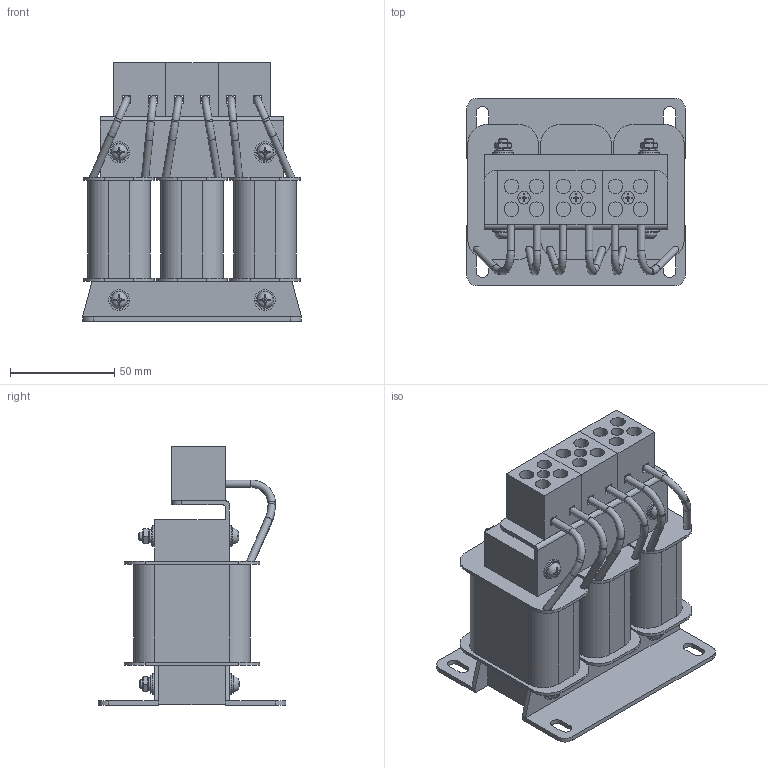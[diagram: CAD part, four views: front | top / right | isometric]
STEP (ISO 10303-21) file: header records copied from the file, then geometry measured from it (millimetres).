
FILE_DESCRIPTION(('STEP AP203'), '1');
FILE_NAME('栖闉罻 _ IMF-2.2_5.1-4', '', ('UNSPECIFIED'), ('UNSPECIFIED'), 'ASCON STEP Converter 1.6', 'ASCON Math Kernel', '');
FILE_SCHEMA(('CONFIG_CONTROL_DESIGN'));
Length unit declared in the file: millimetre
Products named in the file (13): IMF-2.2_5.1-4
Assembly tree (45 placements, depth 2):
  IMF-2.2_5.1-4
    IMF-2.2_5.1-4
    IMF-2.2_5.1-4  x2
    IMF-2.2_5.1-4  x6
    IMF-2.2_5.1-4  x3
    IMF-2.2_5.1-4
    IMF-2.2_5.1-4  x3
    IMF-2.2_5.1-4  x8
    IMF-2.2_5.1-4  x8
    IMF-2.2_5.1-4  x4
    IMF-2.2_5.1-4  x4
    IMF-2.2_5.1-4  x4
    IMF-2.2_5.1-4
Bounding box: 105 x 90 x 124.2 mm (x, y, z)
Volume: 436691.3 mm3; surface area: 134388.6 mm2
Topology: 50 solids, 50 shells, 609 faces, 1355 edges, 874 vertices
Faces by surface type: plane 440, cylinder 133, torus 24, cone 12
Full cylindrical faces by diameter (mm): 3.5 x18, 4 x32, 6 x3, 7 x12, 8.6 x8, 10 x8
Entity records: 7580 total; most frequent: CARTESIAN_POINT 1414, DIRECTION 1030, ORIENTED_EDGE 842, EDGE_CURVE 421, AXIS2_PLACEMENT_3D 372, VERTEX_POINT 301, EDGE_LOOP 300, LINE 286
